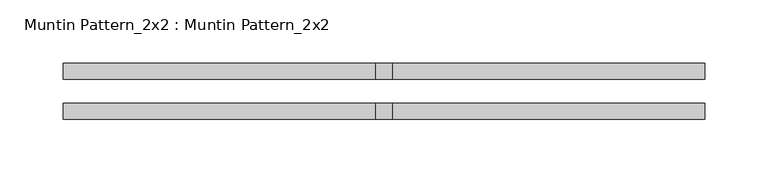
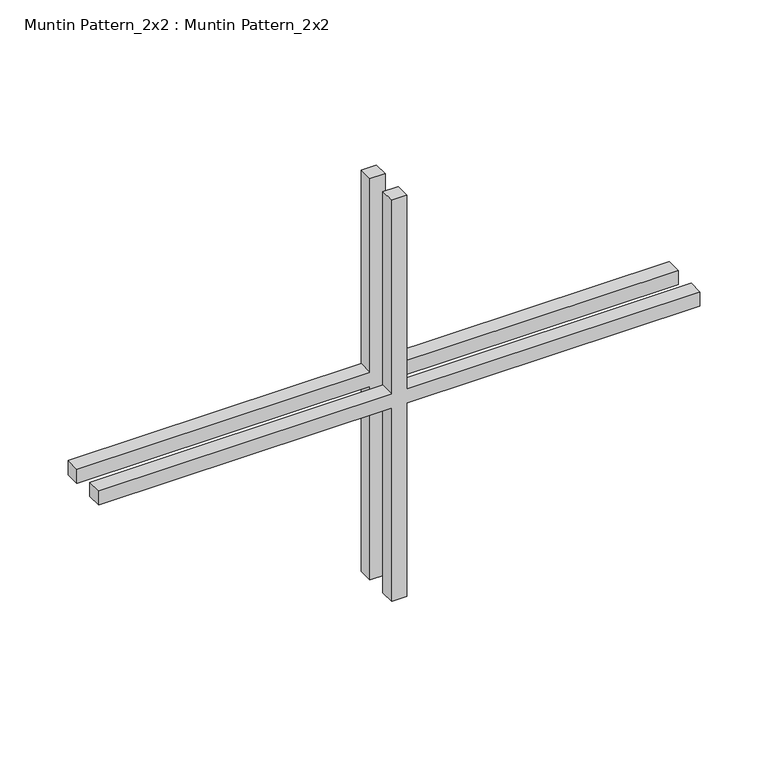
"""IFC4 building model written with IfcOpenShell, lengths in millimetres: proxy geometry, Muntin Pattern_2x2 : Muntin Pattern_2x2."""

from ifc_helpers import new_model, si_unit, frame, origin, place, context, project, spatial, polyline, outline, extrude, source, transform, mapped, element, save


def muntin_pattern_2x2_muntin_pattern_2x2_f959a747(model_context):
    return source(origin(), model_context, "Body", "SweptSolid", [
        extrude(outline(polyline([(185.7375, -6.35), (185.7375, -254.0), (173.0375, -254.0), (173.0375, -6.35), (0.0, -6.35), (0.0, 6.35), (173.0375, 6.35), (173.0375, 254.0), (185.7375, 254.0), (185.7375, 6.35), (358.775, 6.35), (358.775, -6.35), (185.7375, -6.35)])), frame((0.0, 9.525, 0.0), z_axis=(0.0, 1.0, 0.0), x_axis=(0.0, 0.0, 1.0)), (0.0, 0.0, 1.0), 12.7),
        extrude(outline(polyline([(185.7375, -6.35), (185.7375, -254.0), (173.0375, -254.0), (173.0375, -6.35), (0.0, -6.35), (0.0, 6.35), (173.0375, 6.35), (173.0375, 254.0), (185.7375, 254.0), (185.7375, 6.35), (358.775, 6.35), (358.775, -6.35), (185.7375, -6.35)])), frame((0.0, -22.225, 0.0), z_axis=(0.0, 1.0, 0.0), x_axis=(0.0, 0.0, 1.0)), (0.0, 0.0, 1.0), 12.7),
    ])


if __name__ == "__main__":
    model = new_model("IFC4")
    model_context = context("Model", 3, world=origin())
    ifc_project = project(units=[si_unit("LENGTHUNIT", "METRE", prefix="MILLI")], contexts=[model_context])
    site = spatial("IfcSite", under=ifc_project)
    building = spatial("IfcBuilding", under=site)
    placement = place(None, origin())
    muntin_pattern_2x2_muntin_pattern_2x2_shape = muntin_pattern_2x2_muntin_pattern_2x2_f959a747(model_context)
    element("IfcBuildingElementProxy", 1, Name="Muntin Pattern_2x2 : Muntin Pattern_2x2", ObjectType="Muntin Pattern_2x2 : Muntin Pattern_2x2", at=placement, inside=building, context=model_context, shape_type="MappedRepresentation", body=[
        mapped(muntin_pattern_2x2_muntin_pattern_2x2_shape, transform((0.0, 0.0, 0.0), x_axis=(1.0, 0.0, 0.0), y_axis=(0.0, 1.0, 0.0), z_axis=(0.0, 0.0, 1.0))),
    ])
    save(model, "model.ifc")
